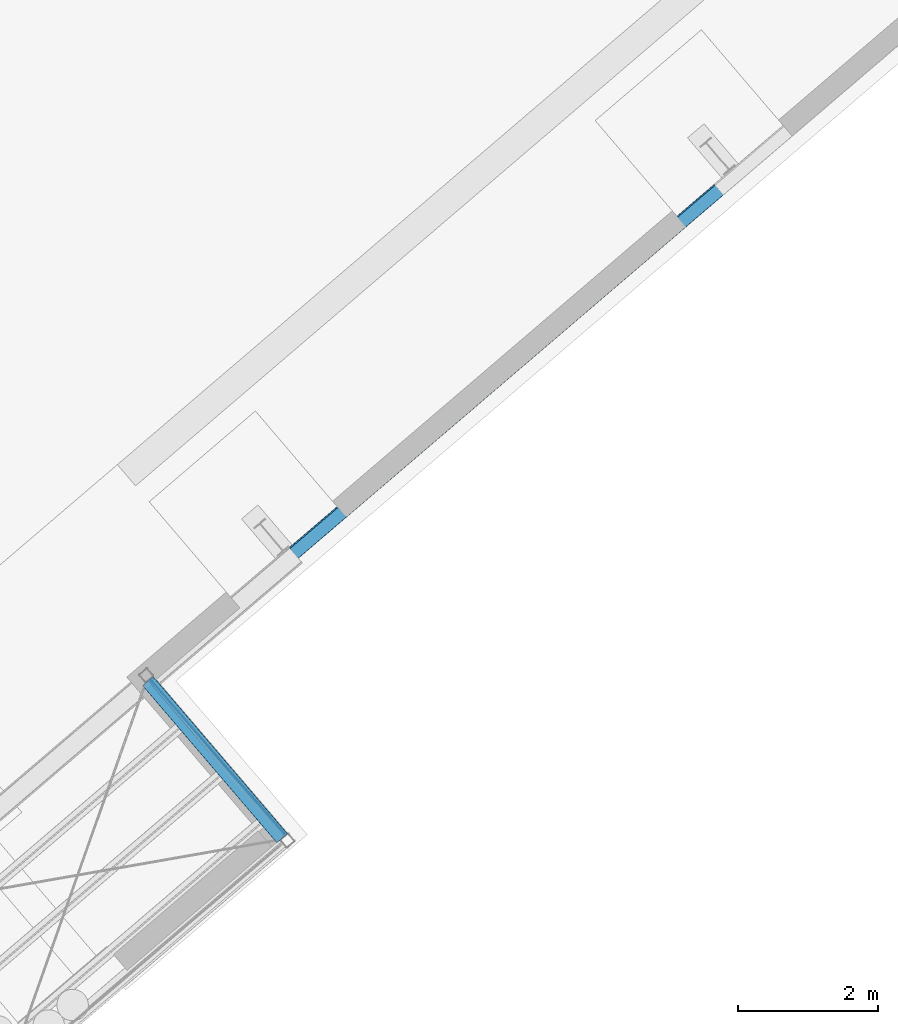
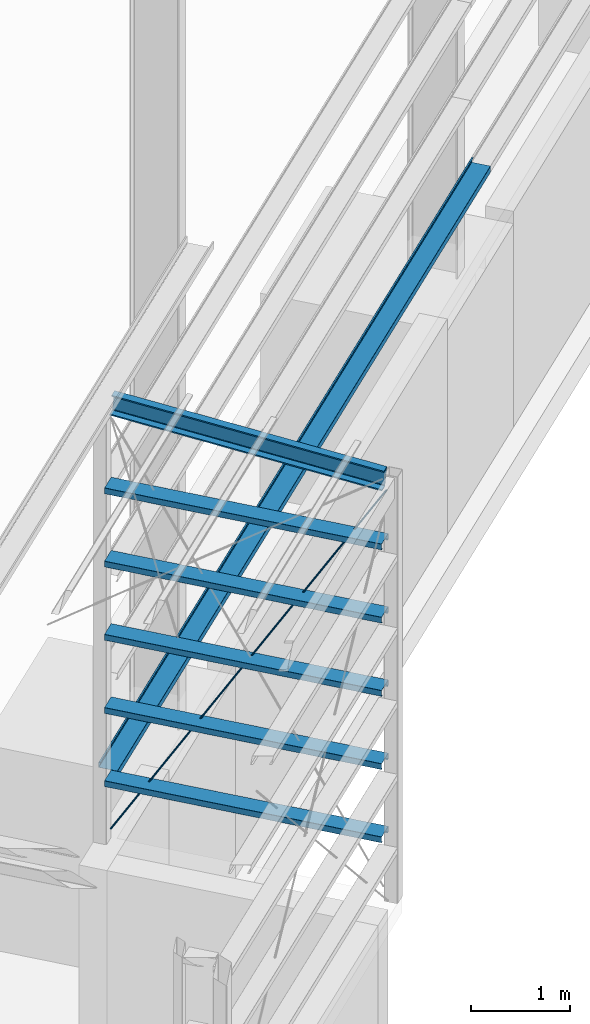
# One storey, part 22 of 41: 6 beams, 2 members, 1 element without a shape of its own.
"""IFC2X3 building model written with IfcOpenShell, lengths in millimetres."""

from ifc_helpers import new_model, entity, si_unit, converted_unit, derived_unit, direction, frame, frame_2d, origin, place, context, subcontext, project, spatial, polyline, circle_curve, parameter, trimmed, segment, composite_curve, circle, outline, extrude, source, transform, mapped, material, type_object, type_shapes, element, aggregate, save


model = new_model("IFC2X3")

# Units and contexts
model_context = context("Model", 3, precision=0.01, world=origin(), true_north=direction((6.123031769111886e-17, 1.0)))
body_context = subcontext(model_context, "Body", "Model", "MODEL_VIEW")
ifc_project = project(units=[si_unit("LENGTHUNIT", "METRE", prefix="MILLI"), si_unit("AREAUNIT", "SQUARE_METRE"), si_unit("VOLUMEUNIT", "CUBIC_METRE"), converted_unit("PLANEANGLEUNIT", "DEGREE", entity("IfcRatioMeasure", 0.017453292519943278), si_unit("PLANEANGLEUNIT", "RADIAN"), dimensions=[0, 0, 0, 0, 0, 0, 0]), si_unit("MASSUNIT", "GRAM", prefix="KILO"), derived_unit("MASSDENSITYUNIT", [(si_unit("MASSUNIT", "GRAM", prefix="KILO"), 1), (si_unit("LENGTHUNIT", "METRE"), -3)]), derived_unit("MOMENTOFINERTIAUNIT", [(si_unit("LENGTHUNIT", "METRE"), 4)]), si_unit("TIMEUNIT", "SECOND"), si_unit("FREQUENCYUNIT", "HERTZ"), si_unit("THERMODYNAMICTEMPERATUREUNIT", "DEGREE_CELSIUS"), derived_unit("THERMALTRANSMITTANCEUNIT", [(si_unit("MASSUNIT", "GRAM", prefix="KILO"), 1), (si_unit("THERMODYNAMICTEMPERATUREUNIT", "KELVIN"), -1), (si_unit("TIMEUNIT", "SECOND"), -3)]), derived_unit("VOLUMETRICFLOWRATEUNIT", [(si_unit("LENGTHUNIT", "METRE"), 3), (si_unit("TIMEUNIT", "SECOND"), -1)]), derived_unit("MASSFLOWRATEUNIT", [(si_unit("MASSUNIT", "GRAM", prefix="KILO"), 1), (si_unit("TIMEUNIT", "SECOND"), -1)]), derived_unit("ROTATIONALFREQUENCYUNIT", [(si_unit("TIMEUNIT", "SECOND"), -1)]), si_unit("ELECTRICCURRENTUNIT", "AMPERE"), si_unit("ELECTRICVOLTAGEUNIT", "VOLT"), si_unit("POWERUNIT", "WATT"), si_unit("FORCEUNIT", "NEWTON", prefix="KILO"), si_unit("ILLUMINANCEUNIT", "LUX"), si_unit("LUMINOUSFLUXUNIT", "LUMEN"), si_unit("LUMINOUSINTENSITYUNIT", "CANDELA"), derived_unit("USERDEFINED", [(si_unit("MASSUNIT", "GRAM", prefix="KILO"), -1), (si_unit("LENGTHUNIT", "METRE"), -2), (si_unit("TIMEUNIT", "SECOND"), 3), (si_unit("LUMINOUSFLUXUNIT", "LUMEN"), 1)]), derived_unit("SOUNDPOWERUNIT", [(si_unit("MASSUNIT", "GRAM", prefix="KILO"), 1), (si_unit("LENGTHUNIT", "METRE"), 2), (si_unit("TIMEUNIT", "SECOND"), -3)]), derived_unit("LINEARVELOCITYUNIT", [(si_unit("LENGTHUNIT", "METRE"), 1), (si_unit("TIMEUNIT", "SECOND"), -1)]), si_unit("PRESSUREUNIT", "PASCAL"), derived_unit("USERDEFINED", [(si_unit("LENGTHUNIT", "METRE"), -2), (si_unit("MASSUNIT", "GRAM", prefix="KILO"), 1), (si_unit("TIMEUNIT", "SECOND"), -2)]), derived_unit("LINEARFORCEUNIT", [(si_unit("MASSUNIT", "GRAM", prefix="KILO"), 1), (si_unit("LENGTHUNIT", "METRE"), 1), (si_unit("TIMEUNIT", "SECOND"), -2), (si_unit("LENGTHUNIT", "METRE"), -1)]), derived_unit("PLANARFORCEUNIT", [(si_unit("MASSUNIT", "GRAM", prefix="KILO"), 1), (si_unit("LENGTHUNIT", "METRE"), 1), (si_unit("TIMEUNIT", "SECOND"), -2), (si_unit("LENGTHUNIT", "METRE"), -2)])], contexts=[model_context])

# Site, building, storey
site_placement = place(None, frame((962.4174930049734, -6014.433753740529, 0.0), z_axis=(0.0, 0.0, 1.0), x_axis=(0.7601792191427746, 0.649713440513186, 0.0)))
site = spatial("IfcSite", under=ifc_project, at=site_placement, Name="Default", CompositionType="ELEMENT")
building_placement = place(site_placement, origin())
building = spatial("IfcBuilding", under=site, at=building_placement, CompositionType="ELEMENT")
storey_placement = place(building_placement, origin())
storey = spatial("IfcBuildingStorey", under=building, at=storey_placement, Name="Datum", CompositionType="ELEMENT", Elevation=0.0)

# Beam
ifc_material_1 = material(Name="Metal - Light Gauge Painted")
beam_type_1 = type_object("IfcBeamType", Name="ADSK_AU_PFC-Parallel Flange Channels (AS 3679_1):250PFC", PredefinedType="NOTDEFINED")
beam_1_placement = place(building_placement, frame((159722.96020470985, -26302.07510643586, 5507.381036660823), z_axis=(0.0, -0.08715574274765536, 0.9961946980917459), x_axis=(0.0, -0.9961946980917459, -0.08715574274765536)))
element("IfcBeam", 1, at=beam_1_placement, inside=storey, type_object=beam_type_1, material=ifc_material_1, Name="ADSK_AU_PFC-Parallel Flange Channels (AS 3679_1):250PFC", ObjectType="ADSK_AU_PFC-Parallel Flange Channels (AS 3679_1):250PFC", context=body_context, shape_type="SweptSolid", body=[
    extrude(outline(composite_curve([segment(polyline([(-125.0, -48.400000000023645), (-110.0, -48.400000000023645)]), True, "CONTINUOUS"), segment(polyline([(-110.0, -48.400000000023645), (-110.0, 21.59999999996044)]), True, "CONTINUOUS"), segment(trimmed(circle_curve(frame_2d((-98.0, 21.59999999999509), x_axis=(-1.0, 0.0)), 12.000000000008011), [parameter(270.00000000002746)], [parameter(0.0)], True, "PARAMETER"), False, "CONTINUOUS"), segment(polyline([(-98.0, 33.59999999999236), (98.0, 33.59999999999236)]), True, "CONTINUOUS"), segment(trimmed(circle_curve(frame_2d((98.0, 21.59999999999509), x_axis=(0.0, 1.0)), 12.000000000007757), [parameter(270.00000000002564)], [parameter(0.0)], True, "PARAMETER"), False, "CONTINUOUS"), segment(polyline([(110.0, 21.59999999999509), (110.0, -48.39999999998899)]), True, "CONTINUOUS"), segment(polyline([(110.0, -48.400000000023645), (125.0, -48.400000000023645)]), True, "CONTINUOUS"), segment(polyline([(125.0, -48.400000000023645), (125.0, 41.599999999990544)]), True, "CONTINUOUS"), segment(polyline([(125.0, 41.599999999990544), (-125.0, 41.599999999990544)]), True, "CONTINUOUS"), segment(polyline([(-125.0, 41.599999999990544), (-125.0, -48.400000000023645)]), True, "CONTINUOUS")], self_intersect=False)), frame((0.00275831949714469, -13.0, -125.0), z_axis=(1.0, 0.0, 0.0), x_axis=(0.0, 0.0, -1.0)), (0.0, 0.0, 1.0), 2920.400000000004),
])

# Assembly, beams
assembly_placement = place(building_placement, origin())
assembly = element("IfcElementAssembly", 2, at=assembly_placement, inside=storey, Name="Structural Beam System:Structural Beam System 1", ObjectType="Structural Beam System:Structural Beam System 1", AssemblyPlace="NOTDEFINED", PredefinedType="BEAM_GRID")
ifc_material_2 = material(Name="Metal - Light Gauge")
beam_type_2 = type_object("IfcBeamType", Name="ADSK_AUS_Light Gauge-Joists:C20019", PredefinedType="NOTDEFINED")
beam_2_placement = place(building_placement, frame((159555.96020470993, -26262.82808212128, 829.9298734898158), z_axis=(0.0, 0.0, 1.0), x_axis=(0.0, -1.0, 0.0)))
beam_2 = element("IfcBeam", 3, at=beam_2_placement, type_object=beam_type_2, material=ifc_material_2, Name="ADSK_AUS_Light Gauge-Joists:C20019", ObjectType="ADSK_AUS_Light Gauge-Joists:C20019", context=body_context, shape_type="SweptSolid", body=[
    extrude(outline(composite_curve([segment(polyline([(-40.55184993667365, -101.50000000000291), (26.331849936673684, -101.50000000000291)]), True, "CONTINUOUS"), segment(trimmed(circle_curve(frame_2d((26.331849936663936, -98.44184993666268), x_axis=(0.0, -1.0)), 3.0581500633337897), [parameter(0.0)], [parameter(89.9999999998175)], True, "PARAMETER"), True, "CONTINUOUS"), segment(polyline([(29.390000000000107, -98.44184993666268), (29.390000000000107, -78.49999999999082)]), True, "CONTINUOUS"), segment(polyline([(29.39000000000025, -78.49999999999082), (27.490000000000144, -78.49999999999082)]), True, "CONTINUOUS"), segment(polyline([(27.490000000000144, -78.49999999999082), (27.490000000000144, -98.02934993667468)]), True, "CONTINUOUS"), segment(trimmed(circle_curve(frame_2d((25.919349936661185, -98.02934993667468), x_axis=(1.0, 0.0)), 1.5706500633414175), [parameter(270.0000000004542)], [parameter(0.0)], True, "PARAMETER"), False, "CONTINUOUS"), segment(polyline([(25.919349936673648, -99.600000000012), (-40.139349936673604, -99.600000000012)]), True, "CONTINUOUS"), segment(trimmed(circle_curve(frame_2d((-40.139349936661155, -98.02934993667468), x_axis=(0.0, -1.0)), 1.570650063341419), [parameter(270.0000000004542)], [parameter(0.0)], True, "PARAMETER"), False, "CONTINUOUS"), segment(polyline([(-41.7100000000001, -98.02934993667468), (-41.71000000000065, 98.02934993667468)]), True, "CONTINUOUS"), segment(trimmed(circle_curve(frame_2d((-40.139349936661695, 98.02934993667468), x_axis=(-1.0, 0.0)), 1.570650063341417), [parameter(270.0000000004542)], [parameter(0.0)], True, "PARAMETER"), False, "CONTINUOUS"), segment(polyline([(-40.13934993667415, 99.600000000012), (25.919349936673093, 99.600000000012)]), True, "CONTINUOUS"), segment(trimmed(circle_curve(frame_2d((25.919349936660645, 98.02934993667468), x_axis=(0.0, 1.0)), 1.5706500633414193), [parameter(270.0000000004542)], [parameter(0.0)], True, "PARAMETER"), False, "CONTINUOUS"), segment(polyline([(27.48999999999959, 98.02934993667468), (27.48999999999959, 78.4999999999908)]), True, "CONTINUOUS"), segment(polyline([(27.48999999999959, 78.4999999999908), (29.38999999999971, 78.4999999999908)]), True, "CONTINUOUS"), segment(polyline([(29.389999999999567, 78.4999999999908), (29.389999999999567, 98.44184993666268)]), True, "CONTINUOUS"), segment(trimmed(circle_curve(frame_2d((26.331849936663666, 98.44184993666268), x_axis=(1.0, 0.0)), 3.058150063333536), [parameter(0.0)], [parameter(89.99999999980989)], True, "PARAMETER"), True, "CONTINUOUS"), segment(polyline([(26.331849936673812, 101.50000000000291), (-40.551849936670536, 101.50000000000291)]), True, "CONTINUOUS"), segment(trimmed(circle_curve(frame_2d((-40.55184993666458, 98.44184993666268), x_axis=(0.0, 1.0)), 3.058150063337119), [parameter(0.0)], [parameter(89.99999999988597)], True, "PARAMETER"), True, "CONTINUOUS"), segment(polyline([(-43.61000000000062, 98.44184993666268), (-43.61000000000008, -98.44184993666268)]), True, "CONTINUOUS"), segment(trimmed(circle_curve(frame_2d((-40.5518499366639, -98.44184993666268), x_axis=(-1.0, 0.0)), 3.0581500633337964), [parameter(0.0)], [parameter(89.9999999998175)], True, "PARAMETER"), True, "CONTINUOUS")], self_intersect=False)), frame((0.30000000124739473, 101.50000000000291, -43.61000000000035), z_axis=(1.0, 0.0, 0.0), x_axis=(0.0, 0.0, -1.0)), (0.0, 0.0, 1.0), 2960.0000000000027),
])
beam_3_placement = place(building_placement, frame((159555.96020470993, -26262.82808212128, 1729.929873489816), z_axis=(0.0, 0.0, 1.0), x_axis=(0.0, -1.0, 0.0)))
beam_3 = element("IfcBeam", 4, at=beam_3_placement, type_object=beam_type_2, material=ifc_material_2, Name="ADSK_AUS_Light Gauge-Joists:C20019", ObjectType="ADSK_AUS_Light Gauge-Joists:C20019", context=body_context, shape_type="SweptSolid", body=[
    extrude(outline(composite_curve([segment(polyline([(-40.55184993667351, -101.50000000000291), (26.33184993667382, -101.50000000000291)]), True, "CONTINUOUS"), segment(trimmed(circle_curve(frame_2d((26.33184993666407, -98.44184993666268), x_axis=(0.0, -1.0)), 3.0581500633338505), [parameter(0.0)], [parameter(89.9999999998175)], True, "PARAMETER"), True, "CONTINUOUS"), segment(polyline([(29.390000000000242, -98.44184993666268), (29.390000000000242, -78.49999999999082)]), True, "CONTINUOUS"), segment(polyline([(29.390000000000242, -78.49999999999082), (27.490000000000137, -78.49999999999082)]), True, "CONTINUOUS"), segment(polyline([(27.490000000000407, -78.49999999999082), (27.490000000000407, -98.02934993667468)]), True, "CONTINUOUS"), segment(trimmed(circle_curve(frame_2d((25.91934993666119, -98.02934993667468), x_axis=(1.0, 0.0)), 1.5706500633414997), [parameter(270.00000000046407)], [parameter(0.0)], True, "PARAMETER"), False, "CONTINUOUS"), segment(polyline([(25.91934993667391, -99.600000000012), (-40.139349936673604, -99.600000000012)]), True, "CONTINUOUS"), segment(trimmed(circle_curve(frame_2d((-40.139349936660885, -98.02934993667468), x_axis=(0.0, -1.0)), 1.5706500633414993), [parameter(270.00000000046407)], [parameter(0.0)], True, "PARAMETER"), False, "CONTINUOUS"), segment(polyline([(-41.70999999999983, -98.02934993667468), (-41.71000000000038, 98.02934993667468)]), True, "CONTINUOUS"), segment(trimmed(circle_curve(frame_2d((-40.139349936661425, 98.02934993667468), x_axis=(-1.0, 0.0)), 1.5706500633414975), [parameter(270.00000000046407)], [parameter(0.0)], True, "PARAMETER"), False, "CONTINUOUS"), segment(polyline([(-40.13934993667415, 99.600000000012), (25.91934993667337, 99.600000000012)]), True, "CONTINUOUS"), segment(trimmed(circle_curve(frame_2d((25.91934993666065, 98.02934993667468), x_axis=(0.0, 1.0)), 1.5706500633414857), [parameter(270.00000000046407)], [parameter(0.0)], True, "PARAMETER"), False, "CONTINUOUS"), segment(polyline([(27.489999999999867, 98.02934993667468), (27.489999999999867, 78.4999999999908)]), True, "CONTINUOUS"), segment(polyline([(27.489999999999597, 78.4999999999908), (29.389999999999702, 78.4999999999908)]), True, "CONTINUOUS"), segment(polyline([(29.389999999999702, 78.4999999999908), (29.389999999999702, 98.44184993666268)]), True, "CONTINUOUS"), segment(trimmed(circle_curve(frame_2d((26.3318499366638, 98.44184993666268), x_axis=(1.0, 0.0)), 3.058150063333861), [parameter(0.0)], [parameter(89.99999999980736)], True, "PARAMETER"), True, "CONTINUOUS"), segment(polyline([(26.33184993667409, 101.50000000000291), (-40.551849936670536, 101.50000000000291)]), True, "CONTINUOUS"), segment(trimmed(circle_curve(frame_2d((-40.55184993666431, 98.44184993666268), x_axis=(0.0, 1.0)), 3.058150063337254), [parameter(0.0)], [parameter(89.99999999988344)], True, "PARAMETER"), True, "CONTINUOUS"), segment(polyline([(-43.61000000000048, 98.44184993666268), (-43.60999999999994, -98.44184993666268)]), True, "CONTINUOUS"), segment(trimmed(circle_curve(frame_2d((-40.551849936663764, -98.44184993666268), x_axis=(-1.0, 0.0)), 3.0581500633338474), [parameter(0.0)], [parameter(89.9999999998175)], True, "PARAMETER"), True, "CONTINUOUS")], self_intersect=False)), frame((0.30000000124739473, 101.50000000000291, -43.61000000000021), z_axis=(1.0, 0.0, 0.0), x_axis=(0.0, 0.0, -1.0)), (0.0, 0.0, 1.0), 2960.0000000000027),
])
beam_4_placement = place(building_placement, frame((159555.96020470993, -26262.82808212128, 2629.929873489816), z_axis=(0.0, 0.0, 1.0), x_axis=(0.0, -1.0, 0.0)))
beam_4 = element("IfcBeam", 5, at=beam_4_placement, type_object=beam_type_2, material=ifc_material_2, Name="ADSK_AUS_Light Gauge-Joists:C20019", ObjectType="ADSK_AUS_Light Gauge-Joists:C20019", context=body_context, shape_type="SweptSolid", body=[
    extrude(outline(composite_curve([segment(polyline([(-40.55184993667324, -101.50000000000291), (26.33184993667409, -101.50000000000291)]), True, "CONTINUOUS"), segment(trimmed(circle_curve(frame_2d((26.3318499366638, -98.44184993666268), x_axis=(0.0, -1.0)), 3.0581500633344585), [parameter(0.0)], [parameter(89.99999999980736)], True, "PARAMETER"), True, "CONTINUOUS"), segment(polyline([(29.390000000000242, -98.44184993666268), (29.390000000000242, -78.49999999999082)]), True, "CONTINUOUS"), segment(polyline([(29.389999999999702, -78.49999999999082), (27.490000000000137, -78.49999999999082)]), True, "CONTINUOUS"), segment(polyline([(27.490000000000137, -78.49999999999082), (27.490000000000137, -98.02934993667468)]), True, "CONTINUOUS"), segment(trimmed(circle_curve(frame_2d((25.91934993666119, -98.02934993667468), x_axis=(1.0, 0.0)), 1.570650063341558), [parameter(270.0000000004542)], [parameter(0.0)], True, "PARAMETER"), False, "CONTINUOUS"), segment(polyline([(25.91934993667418, -99.600000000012), (-40.139349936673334, -99.600000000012)]), True, "CONTINUOUS"), segment(trimmed(circle_curve(frame_2d((-40.139349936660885, -98.02934993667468), x_axis=(0.0, -1.0)), 1.5706500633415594), [parameter(270.0000000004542)], [parameter(0.0)], True, "PARAMETER"), False, "CONTINUOUS"), segment(polyline([(-41.70999999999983, -98.02934993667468), (-41.71000000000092, 98.02934993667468)]), True, "CONTINUOUS"), segment(trimmed(circle_curve(frame_2d((-40.139349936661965, 98.02934993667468), x_axis=(-1.0, 0.0)), 1.5706500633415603), [parameter(270.0000000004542)], [parameter(0.0)], True, "PARAMETER"), False, "CONTINUOUS"), segment(polyline([(-40.13934993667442, 99.600000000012), (25.9193499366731, 99.600000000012)]), True, "CONTINUOUS"), segment(trimmed(circle_curve(frame_2d((25.91934993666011, 98.02934993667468), x_axis=(0.0, 1.0)), 1.5706500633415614), [parameter(270.0000000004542)], [parameter(0.0)], True, "PARAMETER"), False, "CONTINUOUS"), segment(polyline([(27.489999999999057, 98.02934993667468), (27.489999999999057, 78.4999999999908)]), True, "CONTINUOUS"), segment(polyline([(27.490000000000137, 78.4999999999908), (29.389999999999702, 78.4999999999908)]), True, "CONTINUOUS"), segment(polyline([(29.389999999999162, 78.4999999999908), (29.389999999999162, 98.44184993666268)]), True, "CONTINUOUS"), segment(trimmed(circle_curve(frame_2d((26.33184993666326, 98.44184993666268), x_axis=(1.0, 0.0)), 3.0581500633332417), [parameter(0.0)], [parameter(89.99999999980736)], True, "PARAMETER"), True, "CONTINUOUS"), segment(polyline([(26.33184993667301, 101.50000000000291), (-40.551849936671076, 101.50000000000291)]), True, "CONTINUOUS"), segment(trimmed(circle_curve(frame_2d((-40.55184993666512, 98.44184993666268), x_axis=(0.0, 1.0)), 3.0581500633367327), [parameter(0.0)], [parameter(89.9999999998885)], True, "PARAMETER"), True, "CONTINUOUS"), segment(polyline([(-43.61000000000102, 98.44184993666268), (-43.60999999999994, -98.44184993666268)]), True, "CONTINUOUS"), segment(trimmed(circle_curve(frame_2d((-40.551849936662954, -98.44184993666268), x_axis=(-1.0, 0.0)), 3.0581500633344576), [parameter(0.0)], [parameter(89.99999999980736)], True, "PARAMETER"), True, "CONTINUOUS")], self_intersect=False)), frame((0.30000000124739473, 101.50000000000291, -43.61000000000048), z_axis=(1.0, 0.0, 0.0), x_axis=(0.0, 0.0, -1.0)), (0.0, 0.0, 1.0), 2960.0000000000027),
])
beam_5_placement = place(building_placement, frame((159555.96020470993, -26262.82808212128, 3529.929873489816), z_axis=(0.0, 0.0, 1.0), x_axis=(0.0, -1.0, 0.0)))
beam_5 = element("IfcBeam", 6, at=beam_5_placement, type_object=beam_type_2, material=ifc_material_2, Name="ADSK_AUS_Light Gauge-Joists:C20019", ObjectType="ADSK_AUS_Light Gauge-Joists:C20019", context=body_context, shape_type="SweptSolid", body=[
    extrude(outline(composite_curve([segment(polyline([(-40.5518499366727, -101.50000000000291), (26.33184993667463, -101.50000000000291)]), True, "CONTINUOUS"), segment(trimmed(circle_curve(frame_2d((26.33184993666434, -98.44184993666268), x_axis=(0.0, -1.0)), 3.0581500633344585), [parameter(0.0)], [parameter(89.99999999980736)], True, "PARAMETER"), True, "CONTINUOUS"), segment(polyline([(29.390000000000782, -98.44184993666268), (29.390000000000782, -78.49999999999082)]), True, "CONTINUOUS"), segment(polyline([(29.390000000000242, -78.49999999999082), (27.490000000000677, -78.49999999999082)]), True, "CONTINUOUS"), segment(polyline([(27.490000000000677, -78.49999999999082), (27.490000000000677, -98.02934993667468)]), True, "CONTINUOUS"), segment(trimmed(circle_curve(frame_2d((25.91934993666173, -98.02934993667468), x_axis=(1.0, 0.0)), 1.570650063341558), [parameter(270.0000000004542)], [parameter(0.0)], True, "PARAMETER"), False, "CONTINUOUS"), segment(polyline([(25.91934993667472, -99.600000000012), (-40.139349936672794, -99.600000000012)]), True, "CONTINUOUS"), segment(trimmed(circle_curve(frame_2d((-40.139349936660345, -98.02934993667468), x_axis=(0.0, -1.0)), 1.5706500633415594), [parameter(270.0000000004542)], [parameter(0.0)], True, "PARAMETER"), False, "CONTINUOUS"), segment(polyline([(-41.70999999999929, -98.02934993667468), (-41.71000000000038, 98.02934993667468)]), True, "CONTINUOUS"), segment(trimmed(circle_curve(frame_2d((-40.139349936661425, 98.02934993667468), x_axis=(-1.0, 0.0)), 1.5706500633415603), [parameter(270.0000000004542)], [parameter(0.0)], True, "PARAMETER"), False, "CONTINUOUS"), segment(polyline([(-40.13934993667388, 99.600000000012), (25.91934993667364, 99.600000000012)]), True, "CONTINUOUS"), segment(trimmed(circle_curve(frame_2d((25.91934993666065, 98.02934993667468), x_axis=(0.0, 1.0)), 1.5706500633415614), [parameter(270.0000000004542)], [parameter(0.0)], True, "PARAMETER"), False, "CONTINUOUS"), segment(polyline([(27.489999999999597, 98.02934993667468), (27.489999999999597, 78.4999999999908)]), True, "CONTINUOUS"), segment(polyline([(27.490000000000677, 78.4999999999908), (29.390000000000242, 78.4999999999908)]), True, "CONTINUOUS"), segment(polyline([(29.389999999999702, 78.4999999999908), (29.389999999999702, 98.44184993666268)]), True, "CONTINUOUS"), segment(trimmed(circle_curve(frame_2d((26.3318499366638, 98.44184993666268), x_axis=(1.0, 0.0)), 3.0581500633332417), [parameter(0.0)], [parameter(89.99999999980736)], True, "PARAMETER"), True, "CONTINUOUS"), segment(polyline([(26.33184993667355, 101.50000000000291), (-40.551849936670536, 101.50000000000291)]), True, "CONTINUOUS"), segment(trimmed(circle_curve(frame_2d((-40.55184993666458, 98.44184993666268), x_axis=(0.0, 1.0)), 3.0581500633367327), [parameter(0.0)], [parameter(89.9999999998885)], True, "PARAMETER"), True, "CONTINUOUS"), segment(polyline([(-43.61000000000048, 98.44184993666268), (-43.6099999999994, -98.44184993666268)]), True, "CONTINUOUS"), segment(trimmed(circle_curve(frame_2d((-40.551849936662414, -98.44184993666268), x_axis=(-1.0, 0.0)), 3.0581500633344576), [parameter(0.0)], [parameter(89.99999999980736)], True, "PARAMETER"), True, "CONTINUOUS")], self_intersect=False)), frame((0.30000000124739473, 101.50000000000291, -43.60999999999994), z_axis=(1.0, 0.0, 0.0), x_axis=(0.0, 0.0, -1.0)), (0.0, 0.0, 1.0), 2960.0000000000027),
])
beam_6_placement = place(building_placement, frame((159555.96020470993, -26262.82808212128, 4429.929873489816), z_axis=(0.0, 0.0, 1.0), x_axis=(0.0, -1.0, 0.0)))
beam_6 = element("IfcBeam", 7, at=beam_6_placement, type_object=beam_type_2, material=ifc_material_2, Name="ADSK_AUS_Light Gauge-Joists:C20019", ObjectType="ADSK_AUS_Light Gauge-Joists:C20019", context=body_context, shape_type="SweptSolid", body=[
    extrude(outline(composite_curve([segment(polyline([(-40.5518499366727, -101.50000000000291), (26.33184993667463, -101.50000000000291)]), True, "CONTINUOUS"), segment(trimmed(circle_curve(frame_2d((26.33184993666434, -98.44184993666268), x_axis=(0.0, -1.0)), 3.0581500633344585), [parameter(0.0)], [parameter(89.99999999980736)], True, "PARAMETER"), True, "CONTINUOUS"), segment(polyline([(29.390000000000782, -98.44184993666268), (29.390000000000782, -78.49999999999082)]), True, "CONTINUOUS"), segment(polyline([(29.390000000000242, -78.49999999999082), (27.490000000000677, -78.49999999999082)]), True, "CONTINUOUS"), segment(polyline([(27.490000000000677, -78.49999999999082), (27.490000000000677, -98.02934993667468)]), True, "CONTINUOUS"), segment(trimmed(circle_curve(frame_2d((25.91934993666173, -98.02934993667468), x_axis=(1.0, 0.0)), 1.570650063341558), [parameter(270.0000000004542)], [parameter(0.0)], True, "PARAMETER"), False, "CONTINUOUS"), segment(polyline([(25.91934993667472, -99.600000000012), (-40.139349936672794, -99.600000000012)]), True, "CONTINUOUS"), segment(trimmed(circle_curve(frame_2d((-40.139349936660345, -98.02934993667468), x_axis=(0.0, -1.0)), 1.5706500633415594), [parameter(270.0000000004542)], [parameter(0.0)], True, "PARAMETER"), False, "CONTINUOUS"), segment(polyline([(-41.70999999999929, -98.02934993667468), (-41.71000000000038, 98.02934993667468)]), True, "CONTINUOUS"), segment(trimmed(circle_curve(frame_2d((-40.139349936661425, 98.02934993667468), x_axis=(-1.0, 0.0)), 1.5706500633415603), [parameter(270.0000000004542)], [parameter(0.0)], True, "PARAMETER"), False, "CONTINUOUS"), segment(polyline([(-40.13934993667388, 99.600000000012), (25.91934993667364, 99.600000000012)]), True, "CONTINUOUS"), segment(trimmed(circle_curve(frame_2d((25.91934993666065, 98.02934993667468), x_axis=(0.0, 1.0)), 1.5706500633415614), [parameter(270.0000000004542)], [parameter(0.0)], True, "PARAMETER"), False, "CONTINUOUS"), segment(polyline([(27.489999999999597, 98.02934993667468), (27.489999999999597, 78.4999999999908)]), True, "CONTINUOUS"), segment(polyline([(27.490000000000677, 78.4999999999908), (29.390000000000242, 78.4999999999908)]), True, "CONTINUOUS"), segment(polyline([(29.389999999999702, 78.4999999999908), (29.389999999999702, 98.44184993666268)]), True, "CONTINUOUS"), segment(trimmed(circle_curve(frame_2d((26.3318499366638, 98.44184993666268), x_axis=(1.0, 0.0)), 3.0581500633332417), [parameter(0.0)], [parameter(89.99999999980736)], True, "PARAMETER"), True, "CONTINUOUS"), segment(polyline([(26.33184993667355, 101.50000000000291), (-40.551849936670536, 101.50000000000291)]), True, "CONTINUOUS"), segment(trimmed(circle_curve(frame_2d((-40.55184993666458, 98.44184993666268), x_axis=(0.0, 1.0)), 3.0581500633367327), [parameter(0.0)], [parameter(89.9999999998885)], True, "PARAMETER"), True, "CONTINUOUS"), segment(polyline([(-43.61000000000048, 98.44184993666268), (-43.6099999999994, -98.44184993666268)]), True, "CONTINUOUS"), segment(trimmed(circle_curve(frame_2d((-40.551849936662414, -98.44184993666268), x_axis=(-1.0, 0.0)), 3.0581500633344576), [parameter(0.0)], [parameter(89.99999999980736)], True, "PARAMETER"), True, "CONTINUOUS")], self_intersect=False)), frame((0.30000000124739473, 101.50000000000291, -43.60999999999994), z_axis=(1.0, 0.0, 0.0), x_axis=(0.0, 0.0, -1.0)), (0.0, 0.0, 1.0), 2960.0000000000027),
])
aggregate(assembly, [beam_2, beam_3, beam_4, beam_5, beam_6])

# Members
ifc_material_3 = material(Name="<Unnamed>")
member_type_1 = type_object("IfcMemberType", Name="ADSK_AU_Round Bars (AS 3679_1):20ROD", PredefinedType="BRACE", material=ifc_material_3)
shared_shape_1 = source(origin(), body_context, "Body", "SweptSolid", [
    extrude(circle(Radius=10.000000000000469, at=frame_2d((-3.8579110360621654e-16, 1.509782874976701e-14), x_axis=(1.0, 0.0))), frame((-2793.9500000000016, 0.0, 0.0), z_axis=(1.0, 0.0, 0.0), x_axis=(0.0, -1.0, 0.0)), (0.0, 0.0, 1.0), 5652.567847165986),
])
type_shapes(member_type_1, [shared_shape_1])
member_1_placement = place(storey_placement, frame((159708.46020470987, -27765.787770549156, 2597.6299118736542), z_axis=(-0.008088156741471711, 0.8546193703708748, 0.5191919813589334), x_axis=(-0.004913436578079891, 0.5191687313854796, -0.8546576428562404)))
element("IfcMember", 8, at=member_1_placement, inside=storey, type_object=member_type_1, material=ifc_material_3, Name="ADSK_AU_Round Bars (AS 3679_1):20ROD", ObjectType="ADSK_AU_Round Bars (AS 3679_1):20ROD", context=body_context, shape_type="MappedRepresentation", body=[
    mapped(shared_shape_1, transform((0.0, 0.0, 0.0), scale=1.0)),
])
ifc_material_4 = material(Name="Metal - Steel - 345 MPa")
member_type_2 = type_object("IfcMemberType", Name="ADSK_AU_Light Gauge-Zeds:Z20012", PredefinedType="BRACE", material=ifc_material_4)
shared_shape_2 = source(origin(), body_context, "Body", "SweptSolid", [
    extrude(outline(composite_curve([segment(polyline([(-98.30000000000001, -66.44000000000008), (-82.0, -66.44000000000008)]), True, "CONTINUOUS"), segment(polyline([(-82.0, -66.44000000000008), (-82.0, -65.24000000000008)]), True, "CONTINUOUS"), segment(polyline([(-82.0, -65.24000000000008), (-98.29999999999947, -65.24000000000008)]), True, "CONTINUOUS"), segment(trimmed(circle_curve(frame_2d((-98.30000000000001, -63.24000000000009), x_axis=(0.0, -1.0)), 1.999999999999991), [parameter(269.99999999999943)], [parameter(0.0)], True, "PARAMETER"), False, "CONTINUOUS"), segment(polyline([(-100.3, -63.24000000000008), (-100.29999999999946, -6.439999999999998)]), True, "CONTINUOUS"), segment(trimmed(circle_curve(frame_2d((-98.29999999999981, -6.440000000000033), x_axis=(-1.0, 0.0)), 2.000000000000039), [parameter(270.0000000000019)], [parameter(0.0)], True, "PARAMETER"), False, "CONTINUOUS"), segment(polyline([(-98.29999999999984, -4.439999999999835), (98.30000000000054, -4.439999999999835)]), True, "CONTINUOUS"), segment(trimmed(circle_curve(frame_2d((98.29999999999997, -1.2399999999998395), x_axis=(0.0, -1.0)), 3.199999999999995), [parameter(0.0)], [parameter(90.00000000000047)], True, "PARAMETER"), True, "CONTINUOUS"), segment(polyline([(101.49999999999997, -1.239999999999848), (101.50000000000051, 68.3599999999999)]), True, "CONTINUOUS"), segment(trimmed(circle_curve(frame_2d((98.29999999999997, 68.35999999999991), x_axis=(1.0, 0.0)), 3.2000000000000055), [parameter(0.0)], [parameter(90.00000000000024)], True, "PARAMETER"), True, "CONTINUOUS"), segment(polyline([(98.3, 71.5599999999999), (82.0, 71.5599999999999)]), True, "CONTINUOUS"), segment(polyline([(82.0, 71.5599999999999), (82.0, 70.3599999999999)]), True, "CONTINUOUS"), segment(polyline([(82.0, 70.3599999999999), (98.30000000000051, 70.3599999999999)]), True, "CONTINUOUS"), segment(trimmed(circle_curve(frame_2d((98.29999999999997, 68.35999999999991), x_axis=(0.0, 1.0)), 1.9999999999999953), [parameter(269.99999999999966)], [parameter(0.0)], True, "PARAMETER"), False, "CONTINUOUS"), segment(polyline([(100.29999999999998, 68.3599999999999), (100.30000000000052, -1.239999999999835)]), True, "CONTINUOUS"), segment(trimmed(circle_curve(frame_2d((98.29999999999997, -1.2399999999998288), x_axis=(1.0, 0.0)), 2.000000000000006), [parameter(270.00000000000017)], [parameter(0.0)], True, "PARAMETER"), False, "CONTINUOUS"), segment(polyline([(98.3, -3.239999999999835), (-98.2999999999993, -3.239999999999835)]), True, "CONTINUOUS"), segment(trimmed(circle_curve(frame_2d((-98.29999999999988, -6.439999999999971), x_axis=(0.0, 1.0)), 3.200000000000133), [parameter(0.0)], [parameter(90.00000000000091)], True, "PARAMETER"), True, "CONTINUOUS"), segment(polyline([(-101.5, -6.440000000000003), (-101.49999999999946, -63.24000000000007)]), True, "CONTINUOUS"), segment(trimmed(circle_curve(frame_2d((-98.30000000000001, -63.240000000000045), x_axis=(-1.0, 0.0)), 3.2000000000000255), [parameter(0.0)], [parameter(89.99999999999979)], True, "PARAMETER"), True, "CONTINUOUS")], self_intersect=False)), frame((-5924.500000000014, 4.439999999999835, 0.0), z_axis=(1.0, 0.0, 0.0), x_axis=(0.0, 0.0, -1.0)), (0.0, 0.0, 1.0), 11270.00000000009),
])
type_shapes(member_type_2, [shared_shape_2])
member_2_placement = place(storey_placement, frame((165693.46020471, -26224.9280821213, 822.3999999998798), z_axis=(0.0, 1.0, 0.0), x_axis=(1.0, 0.0, 0.0)))
element("IfcMember", 9, at=member_2_placement, inside=storey, type_object=member_type_2, material=ifc_material_4, Name="ADSK_AU_Light Gauge-Zeds:Z20012", ObjectType="ADSK_AU_Light Gauge-Zeds:Z20012", context=body_context, shape_type="MappedRepresentation", body=[
    mapped(shared_shape_2, transform((0.0, 0.0, 0.0), scale=1.0)),
])

save(model, "model.ifc")
